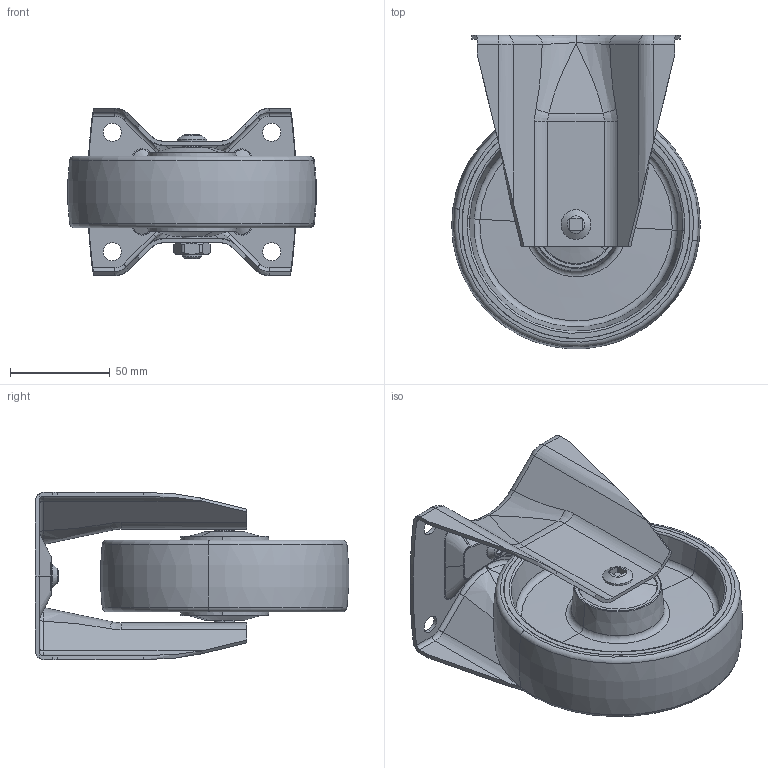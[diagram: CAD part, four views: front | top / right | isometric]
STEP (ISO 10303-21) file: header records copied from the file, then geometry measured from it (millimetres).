
FILE_DESCRIPTION (( 'STEP AP203' ), '1' );
FILE_NAME ('400666_STEP.STEP', '2011-08-29T10:31:35', ( '' ), ( '' ), 'SwSTEP 2.0', 'SolidWorks 2011', '' );
FILE_SCHEMA (( 'CONFIG_CONTROL_DESIGN' ));
Length unit declared in the file: millimetre
Products named in the file (1): 400666_STEP
Bounding box: 124.77 x 157.27 x 84 mm (x, y, z)
Surface area: 134234.6 mm2 (no closed solid volume)
Topology: 0 solids, 12 shells, 420 faces, 1645 edges, 1199 vertices
Faces by surface type: plane 120, bspline 117, cylinder 80, cone 71, torus 32
Entity records: 37740 total; most frequent: CARTESIAN_POINT 26443, ORIENTED_EDGE 2575, EDGE_CURVE 1645, DIRECTION 1529, VERTEX_POINT 1199, B_SPLINE_CURVE_WITH_KNOTS 961, AXIS2_PLACEMENT_3D 587, EDGE_LOOP 477
